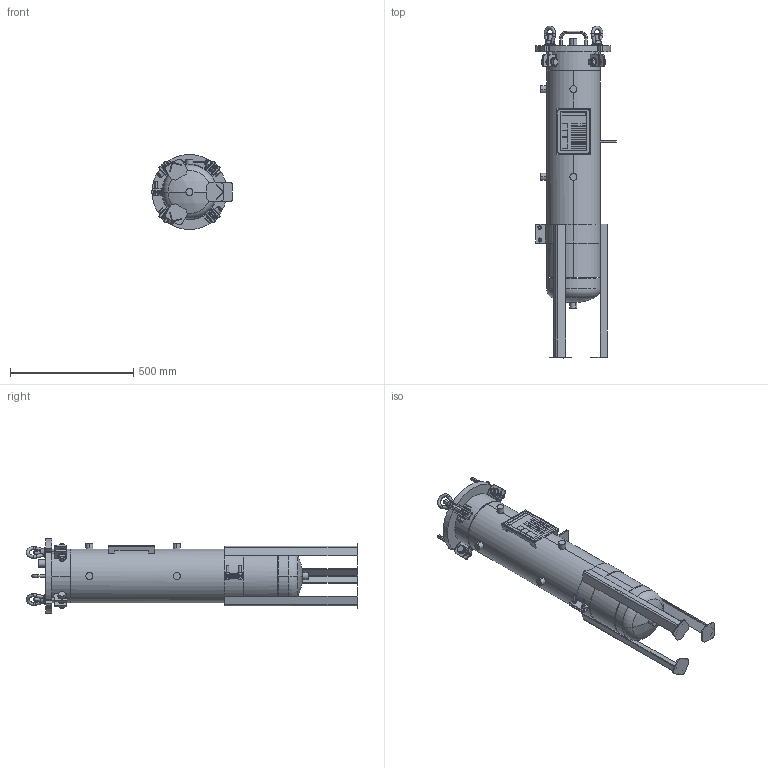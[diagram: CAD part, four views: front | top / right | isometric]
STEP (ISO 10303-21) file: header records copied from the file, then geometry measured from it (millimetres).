
FILE_DESCRIPTION (( 'STEP AP203' ), '1' );
FILE_NAME ('002002-00846.step', '2025-12-09T14:43:34', ( '' ), ( '' ), 'SwSTEP 2.0', 'SolidWorks 2023', '' );
FILE_SCHEMA (( 'CONFIG_CONTROL_DESIGN' ));
Length unit declared in the file: inch
Products named in the file (1): 002002-00846
Bounding box: 325.44 x 1348.98 x 304.8 mm (x, y, z)
Volume: 40768858.5 mm3; surface area: 1632512 mm2
Topology: 15 solids, 15 shells, 910 faces, 2153 edges, 1327 vertices
Faces by surface type: plane 348, cylinder 256, cone 168, torus 70, bspline 66, sphere 2
Entity records: 30531 total; most frequent: CARTESIAN_POINT 9895, DIRECTION 4332, ORIENTED_EDGE 4274, EDGE_CURVE 2137, AXIS2_PLACEMENT_3D 1740, VERTEX_POINT 1327, EDGE_LOOP 1002, ADVANCED_FACE 910
